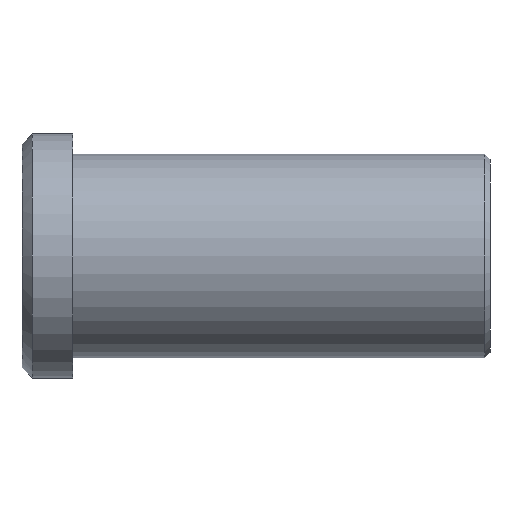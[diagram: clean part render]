
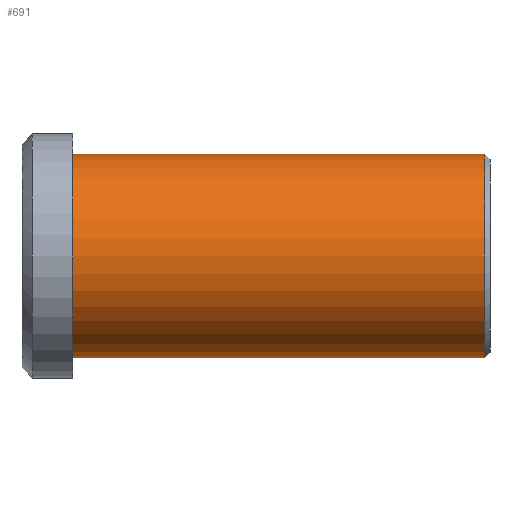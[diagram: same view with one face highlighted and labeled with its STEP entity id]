
A CAD part, front view. The second image highlights one B-rep face of the part: STEP entity #691.
In plain terms, the highlighted cylindrical face has radius 10 mm (diameter 20 mm), a partial arc.
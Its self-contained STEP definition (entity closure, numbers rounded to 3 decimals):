
#501=CARTESIAN_POINT('Vertex',(0.,0.,-10.)) ;
#506=CARTESIAN_POINT('Axis2P3D Location',(0.,0.,0.)) ;
#510=CARTESIAN_POINT('Vertex',(0.,-10.,0.)) ;
#513=CARTESIAN_POINT('Axis2P3D Location',(0.,0.,0.)) ;
#517=CARTESIAN_POINT('Vertex',(0.,0.,10.)) ;
#631=CARTESIAN_POINT('Line Origine',(41.,0.,10.)) ;
#635=CARTESIAN_POINT('Vertex',(40.5,0.,10.)) ;
#649=CARTESIAN_POINT('Vertex',(40.5,0.,-10.)) ;
#652=CARTESIAN_POINT('Line Origine',(41.,0.,-10.)) ;
#666=CARTESIAN_POINT('Axis2P3D Location',(41.,0.,0.)) ;
#671=CARTESIAN_POINT('Axis2P3D Location',(40.5,0.,0.)) ;
#675=CARTESIAN_POINT('Vertex',(40.5,-10.,0.)) ;
#678=CARTESIAN_POINT('Axis2P3D Location',(40.5,0.,0.)) ;
#507=DIRECTION('Axis2P3D Direction',(1.,0.,-0.)) ;
#514=DIRECTION('Axis2P3D Direction',(1.,0.,-0.)) ;
#632=DIRECTION('Vector Direction',(-1.,0.,0.)) ;
#653=DIRECTION('Vector Direction',(-1.,0.,0.)) ;
#667=DIRECTION('Axis2P3D Direction',(-1.,-0.,-0.)) ;
#668=DIRECTION('Axis2P3D XDirection',(0.,0.,-1.)) ;
#672=DIRECTION('Axis2P3D Direction',(-1.,-0.,-0.)) ;
#679=DIRECTION('Axis2P3D Direction',(-1.,-0.,-0.)) ;
#508=AXIS2_PLACEMENT_3D('Circle Axis2P3D',#506,#507,$) ;
#515=AXIS2_PLACEMENT_3D('Circle Axis2P3D',#513,#514,$) ;
#669=AXIS2_PLACEMENT_3D('Cylinder Axis2P3D',#666,#667,#668) ;
#673=AXIS2_PLACEMENT_3D('Circle Axis2P3D',#671,#672,$) ;
#680=AXIS2_PLACEMENT_3D('Circle Axis2P3D',#678,#679,$) ;
#684=ORIENTED_EDGE('',*,*,#656,.T.) ;
#685=ORIENTED_EDGE('',*,*,#677,.F.) ;
#686=ORIENTED_EDGE('',*,*,#682,.F.) ;
#687=ORIENTED_EDGE('',*,*,#637,.T.) ;
#688=ORIENTED_EDGE('',*,*,#519,.T.) ;
#689=ORIENTED_EDGE('',*,*,#512,.T.) ;
#633=VECTOR('Line Direction',#632,1.) ;
#654=VECTOR('Line Direction',#653,1.) ;
#691=ADVANCED_FACE('353-14X46',(#690),#670,.T.) ;
#509=CIRCLE('generated circle',#508,10.) ;
#516=CIRCLE('generated circle',#515,10.) ;
#674=CIRCLE('generated circle',#673,10.) ;
#681=CIRCLE('generated circle',#680,10.) ;
#670=CYLINDRICAL_SURFACE('generated cylinder',#669,10.) ;
#512=EDGE_CURVE('',#511,#502,#509,.T.) ;
#519=EDGE_CURVE('',#518,#511,#516,.T.) ;
#637=EDGE_CURVE('',#636,#518,#634,.T.) ;
#656=EDGE_CURVE('',#502,#650,#655,.F.) ;
#677=EDGE_CURVE('',#676,#650,#674,.F.) ;
#682=EDGE_CURVE('',#636,#676,#681,.F.) ;
#683=EDGE_LOOP('',(#684,#685,#686,#687,#688,#689)) ;
#690=FACE_OUTER_BOUND('',#683,.T.) ;
#634=LINE('Line',#631,#633) ;
#655=LINE('Line',#652,#654) ;
#502=VERTEX_POINT('',#501) ;
#511=VERTEX_POINT('',#510) ;
#518=VERTEX_POINT('',#517) ;
#636=VERTEX_POINT('',#635) ;
#650=VERTEX_POINT('',#649) ;
#676=VERTEX_POINT('',#675) ;
